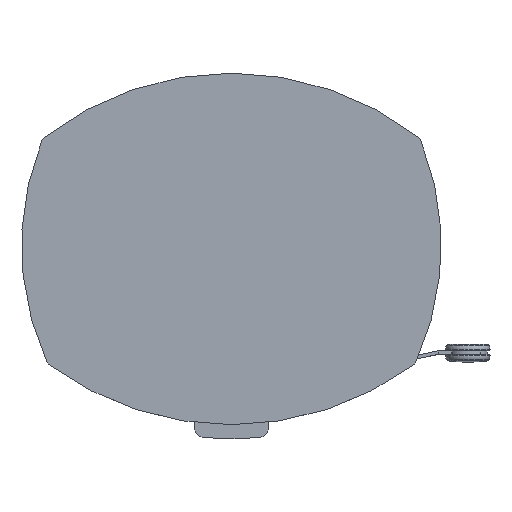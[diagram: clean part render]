
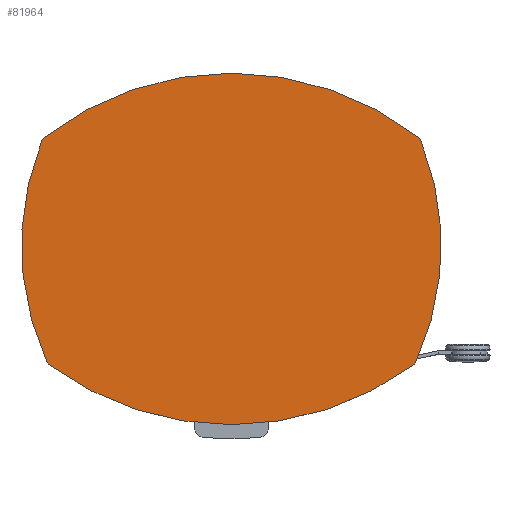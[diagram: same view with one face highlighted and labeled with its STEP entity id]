
A CAD part, top view. The second image highlights one B-rep face of the part: STEP entity #81964.
In plain terms, the highlighted planar face has unit normal (0, 0, 1).
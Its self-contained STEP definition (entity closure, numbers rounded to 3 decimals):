
#6640=FACE_OUTER_BOUND('',#11231,.T.);
#11231=EDGE_LOOP('',(#70991,#70992,#70993,#70994,#70995,#70996,#70997,#70998));
#29989=CIRCLE('',#89072,10.);
#29990=CIRCLE('',#89074,355.);
#29991=CIRCLE('',#89075,10.);
#29992=CIRCLE('',#89076,323.);
#29993=CIRCLE('',#89077,10.);
#29994=CIRCLE('',#89078,352.);
#29995=CIRCLE('',#89079,10.);
#29996=CIRCLE('',#89080,323.);
#37214=VERTEX_POINT('',#138996);
#37215=VERTEX_POINT('',#138998);
#37216=VERTEX_POINT('',#139002);
#37217=VERTEX_POINT('',#139004);
#37218=VERTEX_POINT('',#139006);
#37219=VERTEX_POINT('',#139008);
#37220=VERTEX_POINT('',#139010);
#37221=VERTEX_POINT('',#139012);
#48475=EDGE_CURVE('',#37214,#37215,#29989,.T.);
#48477=EDGE_CURVE('',#37216,#37214,#29990,.T.);
#48478=EDGE_CURVE('',#37217,#37216,#29991,.T.);
#48479=EDGE_CURVE('',#37218,#37217,#29992,.T.);
#48480=EDGE_CURVE('',#37219,#37218,#29993,.T.);
#48481=EDGE_CURVE('',#37220,#37219,#29994,.T.);
#48482=EDGE_CURVE('',#37221,#37220,#29995,.T.);
#48483=EDGE_CURVE('',#37215,#37221,#29996,.T.);
#70991=ORIENTED_EDGE('',*,*,#48475,.F.);
#70992=ORIENTED_EDGE('',*,*,#48477,.F.);
#70993=ORIENTED_EDGE('',*,*,#48478,.F.);
#70994=ORIENTED_EDGE('',*,*,#48479,.F.);
#70995=ORIENTED_EDGE('',*,*,#48480,.F.);
#70996=ORIENTED_EDGE('',*,*,#48481,.F.);
#70997=ORIENTED_EDGE('',*,*,#48482,.F.);
#70998=ORIENTED_EDGE('',*,*,#48483,.F.);
#73605=PLANE('',#89073);
#81964=ADVANCED_FACE('',(#6640),#73605,.F.);
#89072=AXIS2_PLACEMENT_3D('',#138999,#111000,#111001);
#89073=AXIS2_PLACEMENT_3D('',#139001,#111003,#111004);
#89074=AXIS2_PLACEMENT_3D('',#139003,#111005,#111006);
#89075=AXIS2_PLACEMENT_3D('',#139005,#111007,#111008);
#89076=AXIS2_PLACEMENT_3D('',#139007,#111009,#111010);
#89077=AXIS2_PLACEMENT_3D('',#139009,#111011,#111012);
#89078=AXIS2_PLACEMENT_3D('',#139011,#111013,#111014);
#89079=AXIS2_PLACEMENT_3D('',#139013,#111015,#111016);
#89080=AXIS2_PLACEMENT_3D('',#139014,#111017,#111018);
#111000=DIRECTION('center_axis',(0.,0.,
-1.));
#111001=DIRECTION('ref_axis',(-0.776,-0.631,0.));
#111003=DIRECTION('center_axis',(0.,0.,
-1.));
#111004=DIRECTION('ref_axis',(1.,0.,0.));
#111005=DIRECTION('center_axis',(0.,0.,
-1.));
#111006=DIRECTION('ref_axis',(0.599,-0.801,0.));
#111007=DIRECTION('center_axis',(0.,0.,
-1.));
#111008=DIRECTION('ref_axis',(0.776,-0.631,0.));
#111009=DIRECTION('center_axis',(0.,0.,
-1.));
#111010=DIRECTION('ref_axis',(0.924,0.382,0.));
#111011=DIRECTION('center_axis',(0.,0.,
-1.));
#111012=DIRECTION('ref_axis',(0.798,0.602,0.));
#111013=DIRECTION('center_axis',(0.,0.,
-1.));
#111014=DIRECTION('ref_axis',(-0.621,0.784,0.));
#111015=DIRECTION('center_axis',(0.,0.,
-1.));
#111016=DIRECTION('ref_axis',(-0.798,0.602,0.));
#111017=DIRECTION('center_axis',(0.,0.,
-1.));
#111018=DIRECTION('ref_axis',(-0.906,-0.424,0.));
#138996=CARTESIAN_POINT('',(-210.525,-285.84,572.));
#138998=CARTESIAN_POINT('',(-213.687,-281.95,572.));
#138999=CARTESIAN_POINT('Origin',(-204.595,-277.788,572.));
#139001=CARTESIAN_POINT('Origin',(0.,-151.453,
572.));
#139002=CARTESIAN_POINT('',(210.525,-285.84,572.));
#139003=CARTESIAN_POINT('Origin',(0.,0.,
572.));
#139004=CARTESIAN_POINT('',(213.687,-281.95,572.));
#139005=CARTESIAN_POINT('Origin',(204.595,-277.788,572.));
#139006=CARTESIAN_POINT('',(219.469,-26.473,572.));
#139007=CARTESIAN_POINT('Origin',(-80.,-147.5,572.));
#139008=CARTESIAN_POINT('',(216.343,-22.332,572.));
#139009=CARTESIAN_POINT('Origin',(210.197,-30.22,572.));
#139010=CARTESIAN_POINT('',(-216.343,-22.332,572.));
#139011=CARTESIAN_POINT('Origin',(0.,-300.,572.));
#139012=CARTESIAN_POINT('',(-219.469,-26.473,572.));
#139013=CARTESIAN_POINT('Origin',(-210.197,-30.22,572.));
#139014=CARTESIAN_POINT('Origin',(80.,-147.5,572.));
